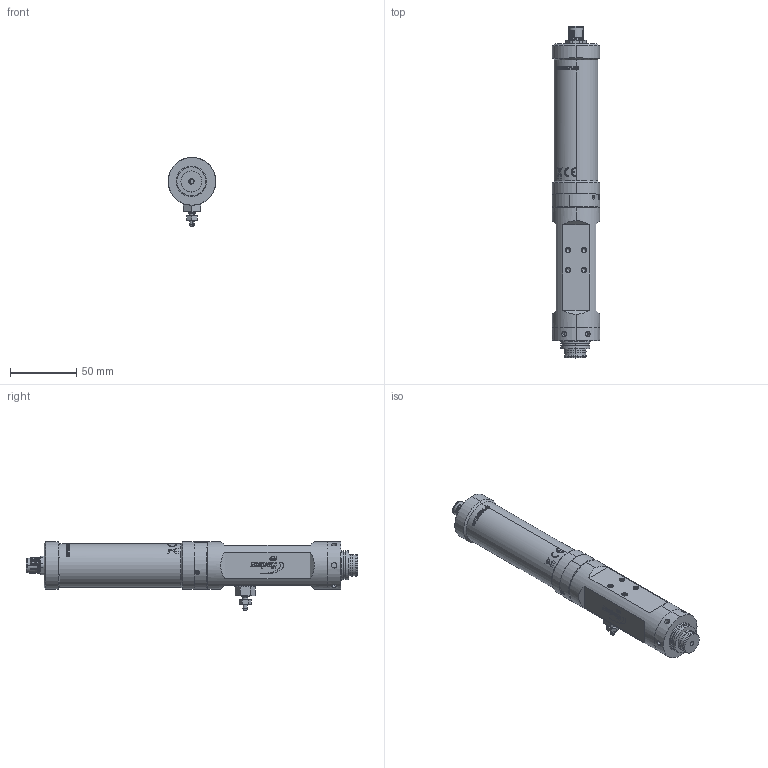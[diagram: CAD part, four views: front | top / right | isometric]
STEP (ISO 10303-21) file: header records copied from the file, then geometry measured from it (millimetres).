
FILE_DESCRIPTION (( 'STEP AP214' ), '1' );
FILE_NAME ('NORDSONEFD-7364204 PUMP, 2K, 797PCP, 0.05CC REV,. FFKM.STEP', '2021-01-08T13:03:02', ( '' ), ( '' ), 'SwSTEP 2.0', 'SolidWorks 2020', '' );
FILE_SCHEMA (( 'AUTOMOTIVE_DESIGN' ));
Length unit declared in the file: inch
Products named in the file (1): NORDSONEFD-7364204  PUMP, 2K, 797PCP, 0.05CC REV,. FFKM
Bounding box: 36 x 250.84 x 52.04 mm (x, y, z)
Volume: 183722.9 mm3; surface area: 50485.4 mm2
Topology: 8 solids, 8 shells, 1151 faces, 3496 edges, 2484 vertices
Faces by surface type: cylinder 612, plane 260, bspline 156, cone 55, torus 42, sphere 26
Entity records: 106483 total; most frequent: CARTESIAN_POINT 73756, ORIENTED_EDGE 6876, DIRECTION 4617, EDGE_CURVE 3438, VERTEX_POINT 2460, AXIS2_PLACEMENT_3D 1759, EDGE_LOOP 1332, ADVANCED_FACE 1151
